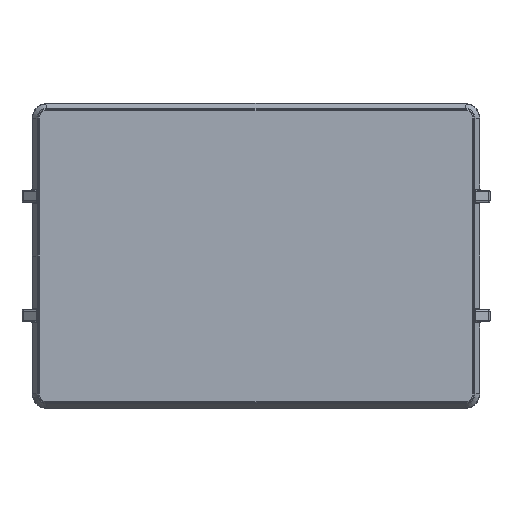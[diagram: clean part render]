
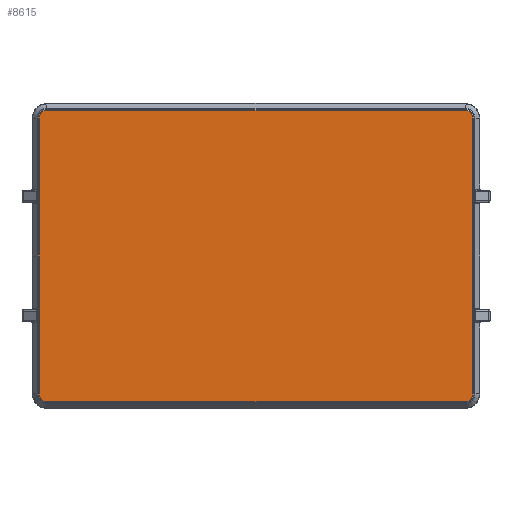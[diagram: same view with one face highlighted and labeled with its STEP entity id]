
A CAD part, front view. The second image highlights one B-rep face of the part: STEP entity #8615.
In plain terms, the highlighted planar face has unit normal (0, -1, 0).
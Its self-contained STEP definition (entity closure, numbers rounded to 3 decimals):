
#123 = VERTEX_POINT ( 'NONE', #7607 ) ;
#165 = LINE ( 'NONE', #21229, #16641 ) ;
#423 = DIRECTION ( 'NONE',  ( -1., 0., 0. ) ) ;
#617 = DIRECTION ( 'NONE',  ( 1., 0., 0. ) ) ;
#696 = CARTESIAN_POINT ( 'NONE',  ( 88., -49., 61.334 ) ) ;
#815 = VECTOR ( 'NONE', #1860, 1000. ) ;
#1005 = AXIS2_PLACEMENT_3D ( 'NONE', #7524, #18421, #12801 ) ;
#1860 = DIRECTION ( 'NONE',  ( 0., 0., -1. ) ) ;
#1930 = CARTESIAN_POINT ( 'NONE',  ( -88., -49., -61.334 ) ) ;
#2196 = AXIS2_PLACEMENT_3D ( 'NONE', #7816, #5538, #2413 ) ;
#2229 = DIRECTION ( 'NONE',  ( 0., 0., 1. ) ) ;
#2266 = AXIS2_PLACEMENT_3D ( 'NONE', #3900, #21808, #423 ) ;
#2413 = DIRECTION ( 'NONE',  ( 0., 0., -1. ) ) ;
#3358 = VECTOR ( 'NONE', #4733, 1000. ) ;
#3614 = CARTESIAN_POINT ( 'NONE',  ( 91.334, -49., -58. ) ) ;
#3695 = EDGE_CURVE ( 'NONE', #123, #12565, #20102, .T. ) ;
#3900 = CARTESIAN_POINT ( 'NONE',  ( -88., -49., -58. ) ) ;
#3920 = EDGE_LOOP ( 'NONE', ( #18828, #20053, #10487, #9494, #14201, #15041, #11199, #14639, #7057 ) ) ;
#4077 = EDGE_CURVE ( 'NONE', #7651, #21425, #17828, .T. ) ;
#4714 = AXIS2_PLACEMENT_3D ( 'NONE', #10968, #7520, #2229 ) ;
#4733 = DIRECTION ( 'NONE',  ( -1., 0., 0. ) ) ;
#5085 = DIRECTION ( 'NONE',  ( 0., -1., 0. ) ) ;
#5538 = DIRECTION ( 'NONE',  ( 0., -1., 0. ) ) ;
#6457 = EDGE_CURVE ( 'NONE', #16798, #7651, #13485, .T. ) ;
#6622 = DIRECTION ( 'NONE',  ( 0., 0., -1. ) ) ;
#7057 = ORIENTED_EDGE ( 'NONE', *, *, #18240, .T. ) ;
#7520 = DIRECTION ( 'NONE',  ( 0., -1., 0. ) ) ;
#7524 = CARTESIAN_POINT ( 'NONE',  ( -91.334, -49., 0. ) ) ;
#7607 = CARTESIAN_POINT ( 'NONE',  ( -88., -49., 61.334 ) ) ;
#7651 = VERTEX_POINT ( 'NONE', #18971 ) ;
#7740 = DIRECTION ( 'NONE',  ( 0., 0., 1. ) ) ;
#7816 = CARTESIAN_POINT ( 'NONE',  ( 88., -49., -58. ) ) ;
#8220 = LINE ( 'NONE', #18677, #19139 ) ;
#8615 = ADVANCED_FACE ( 'NONE', ( #9705 ), #16478, .F. ) ;
#9216 = LINE ( 'NONE', #10604, #815 ) ;
#9229 = CIRCLE ( 'NONE', #2196, 3.334 ) ;
#9494 = ORIENTED_EDGE ( 'NONE', *, *, #16092, .T. ) ;
#9705 = FACE_OUTER_BOUND ( 'NONE', #3920, .T. ) ;
#10037 = CARTESIAN_POINT ( 'NONE',  ( 88., -49., -61.334 ) ) ;
#10309 = VERTEX_POINT ( 'NONE', #10037 ) ;
#10487 = ORIENTED_EDGE ( 'NONE', *, *, #18915, .T. ) ;
#10604 = CARTESIAN_POINT ( 'NONE',  ( -91.334, -49., 58. ) ) ;
#10968 = CARTESIAN_POINT ( 'NONE',  ( -88., -49., 58. ) ) ;
#11199 = ORIENTED_EDGE ( 'NONE', *, *, #16142, .T. ) ;
#12565 = VERTEX_POINT ( 'NONE', #13648 ) ;
#12801 = DIRECTION ( 'NONE',  ( 0., 0., 1. ) ) ;
#13485 = LINE ( 'NONE', #16808, #15244 ) ;
#13648 = CARTESIAN_POINT ( 'NONE',  ( -91.334, -49., 58. ) ) ;
#14201 = ORIENTED_EDGE ( 'NONE', *, *, #6457, .T. ) ;
#14566 = EDGE_CURVE ( 'NONE', #17301, #18743, #8220, .T. ) ;
#14639 = ORIENTED_EDGE ( 'NONE', *, *, #3695, .T. ) ;
#15041 = ORIENTED_EDGE ( 'NONE', *, *, #4077, .T. ) ;
#15244 = VECTOR ( 'NONE', #7740, 1000. ) ;
#16092 = EDGE_CURVE ( 'NONE', #10309, #16798, #9229, .T. ) ;
#16142 = EDGE_CURVE ( 'NONE', #21425, #123, #18491, .T. ) ;
#16478 = PLANE ( 'NONE',  #1005 ) ;
#16641 = VECTOR ( 'NONE', #617, 1000. ) ;
#16798 = VERTEX_POINT ( 'NONE', #3614 ) ;
#16808 = CARTESIAN_POINT ( 'NONE',  ( 91.334, -49., -58. ) ) ;
#17249 = EDGE_CURVE ( 'NONE', #18743, #20752, #17662, .T. ) ;
#17301 = VERTEX_POINT ( 'NONE', #22150 ) ;
#17662 = CIRCLE ( 'NONE', #2266, 3.334 ) ;
#17828 = CIRCLE ( 'NONE', #21866, 3.334 ) ;
#18240 = EDGE_CURVE ( 'NONE', #12565, #17301, #9216, .T. ) ;
#18421 = DIRECTION ( 'NONE',  ( 0., 1., 0. ) ) ;
#18491 = LINE ( 'NONE', #20586, #3358 ) ;
#18677 = CARTESIAN_POINT ( 'NONE',  ( -91.334, -49., 0. ) ) ;
#18743 = VERTEX_POINT ( 'NONE', #22726 ) ;
#18828 = ORIENTED_EDGE ( 'NONE', *, *, #14566, .T. ) ;
#18915 = EDGE_CURVE ( 'NONE', #20752, #10309, #165, .T. ) ;
#18971 = CARTESIAN_POINT ( 'NONE',  ( 91.334, -49., 58. ) ) ;
#19139 = VECTOR ( 'NONE', #6622, 1000. ) ;
#19768 = DIRECTION ( 'NONE',  ( 1., 0., 0. ) ) ;
#20053 = ORIENTED_EDGE ( 'NONE', *, *, #17249, .T. ) ;
#20102 = CIRCLE ( 'NONE', #4714, 3.334 ) ;
#20586 = CARTESIAN_POINT ( 'NONE',  ( 88., -49., 61.334 ) ) ;
#20752 = VERTEX_POINT ( 'NONE', #1930 ) ;
#20831 = CARTESIAN_POINT ( 'NONE',  ( 88., -49., 58. ) ) ;
#21229 = CARTESIAN_POINT ( 'NONE',  ( -88., -49., -61.334 ) ) ;
#21425 = VERTEX_POINT ( 'NONE', #696 ) ;
#21808 = DIRECTION ( 'NONE',  ( 0., -1., 0. ) ) ;
#21866 = AXIS2_PLACEMENT_3D ( 'NONE', #20831, #5085, #19768 ) ;
#22150 = CARTESIAN_POINT ( 'NONE',  ( -91.334, -49., 0. ) ) ;
#22726 = CARTESIAN_POINT ( 'NONE',  ( -91.334, -49., -58. ) ) ;
